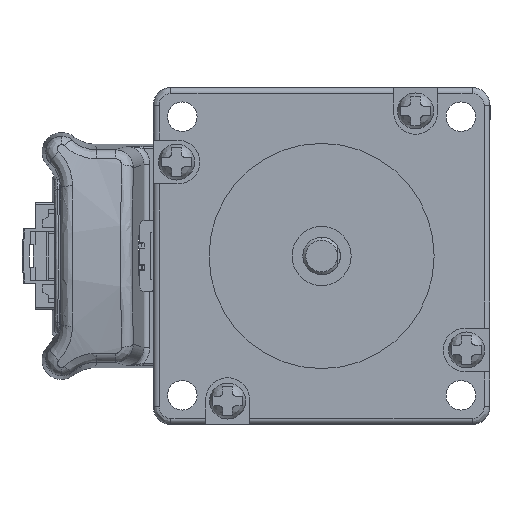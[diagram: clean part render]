
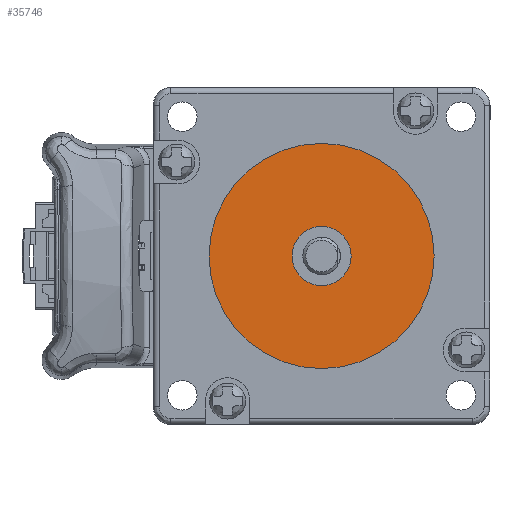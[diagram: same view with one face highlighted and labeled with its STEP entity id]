
A CAD part, left-side view. The second image highlights one B-rep face of the part: STEP entity #35746.
In plain terms, the highlighted planar face has unit normal (-1, 0, 0) as drawn and (0, 0, 1) by its records, which use the part's own axes.
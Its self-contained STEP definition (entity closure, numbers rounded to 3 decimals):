
#887 = DIRECTION ( 'NONE',  ( 1., 0., 0. ) ) ;
#5109 = AXIS2_PLACEMENT_3D ( 'NONE', #113682, #57366, #887 ) ;
#6557 = CIRCLE ( 'NONE', #70404, 19.05 ) ;
#7567 = CIRCLE ( 'NONE', #41866, 5. ) ;
#8525 = EDGE_LOOP ( 'NONE', ( #40261, #81593 ) ) ;
#9128 = EDGE_CURVE ( 'NONE', #89992, #61500, #80697, .T. ) ;
#10024 = PLANE ( 'NONE',  #65935 ) ;
#11394 = CARTESIAN_POINT ( 'NONE',  ( -26.839, -49.743, 48.6 ) ) ;
#12945 = ORIENTED_EDGE ( 'NONE', *, *, #41869, .T. ) ;
#16737 = CIRCLE ( 'NONE', #41823, 5. ) ;
#18809 = VERTEX_POINT ( 'NONE', #28695 ) ;
#22758 = VERTEX_POINT ( 'NONE', #38369 ) ;
#24501 = DIRECTION ( 'NONE',  ( 0., 0., -1. ) ) ;
#28236 = EDGE_LOOP ( 'NONE', ( #12945, #57381 ) ) ;
#28695 = CARTESIAN_POINT ( 'NONE',  ( -12.789, -49.743, 48.6 ) ) ;
#35746 = ADVANCED_FACE ( 'NONE', ( #82957, #35882 ), #10024, .T. ) ;
#35882 = FACE_BOUND ( 'NONE', #28236, .T. ) ;
#38369 = CARTESIAN_POINT ( 'NONE',  ( -2.789, -49.743, 48.6 ) ) ;
#40261 = ORIENTED_EDGE ( 'NONE', *, *, #63312, .F. ) ;
#41823 = AXIS2_PLACEMENT_3D ( 'NONE', #80808, #24501, #90327 ) ;
#41866 = AXIS2_PLACEMENT_3D ( 'NONE', #44824, #110632, #54309 ) ;
#41869 = EDGE_CURVE ( 'NONE', #18809, #22758, #16737, .T. ) ;
#44824 = CARTESIAN_POINT ( 'NONE',  ( -7.789, -49.743, 48.6 ) ) ;
#45232 = CARTESIAN_POINT ( 'NONE',  ( -7.789, -49.743, 48.6 ) ) ;
#47982 = DIRECTION ( 'NONE',  ( 0., 0., 1. ) ) ;
#54309 = DIRECTION ( 'NONE',  ( -1., 0., 0. ) ) ;
#54717 = DIRECTION ( 'NONE',  ( 1., 0., 0. ) ) ;
#57366 = DIRECTION ( 'NONE',  ( 0., 0., -1. ) ) ;
#57381 = ORIENTED_EDGE ( 'NONE', *, *, #93727, .T. ) ;
#61378 = CARTESIAN_POINT ( 'NONE',  ( 11.261, -49.743, 48.6 ) ) ;
#61500 = VERTEX_POINT ( 'NONE', #61378 ) ;
#63312 = EDGE_CURVE ( 'NONE', #61500, #89992, #6557, .T. ) ;
#65935 = AXIS2_PLACEMENT_3D ( 'NONE', #94918, #47982, #113756 ) ;
#70404 = AXIS2_PLACEMENT_3D ( 'NONE', #45232, #111045, #54717 ) ;
#80697 = CIRCLE ( 'NONE', #5109, 19.05 ) ;
#80808 = CARTESIAN_POINT ( 'NONE',  ( -7.789, -49.743, 48.6 ) ) ;
#81593 = ORIENTED_EDGE ( 'NONE', *, *, #9128, .F. ) ;
#82957 = FACE_OUTER_BOUND ( 'NONE', #8525, .T. ) ;
#89992 = VERTEX_POINT ( 'NONE', #11394 ) ;
#90327 = DIRECTION ( 'NONE',  ( -1., 0., 0. ) ) ;
#93727 = EDGE_CURVE ( 'NONE', #22758, #18809, #7567, .T. ) ;
#94918 = CARTESIAN_POINT ( 'NONE',  ( -28.744, -70.483, 48.6 ) ) ;
#110632 = DIRECTION ( 'NONE',  ( 0., 0., -1. ) ) ;
#111045 = DIRECTION ( 'NONE',  ( 0., 0., -1. ) ) ;
#113682 = CARTESIAN_POINT ( 'NONE',  ( -7.789, -49.743, 48.6 ) ) ;
#113756 = DIRECTION ( 'NONE',  ( 1., 0., 0. ) ) ;
